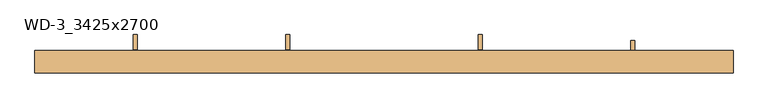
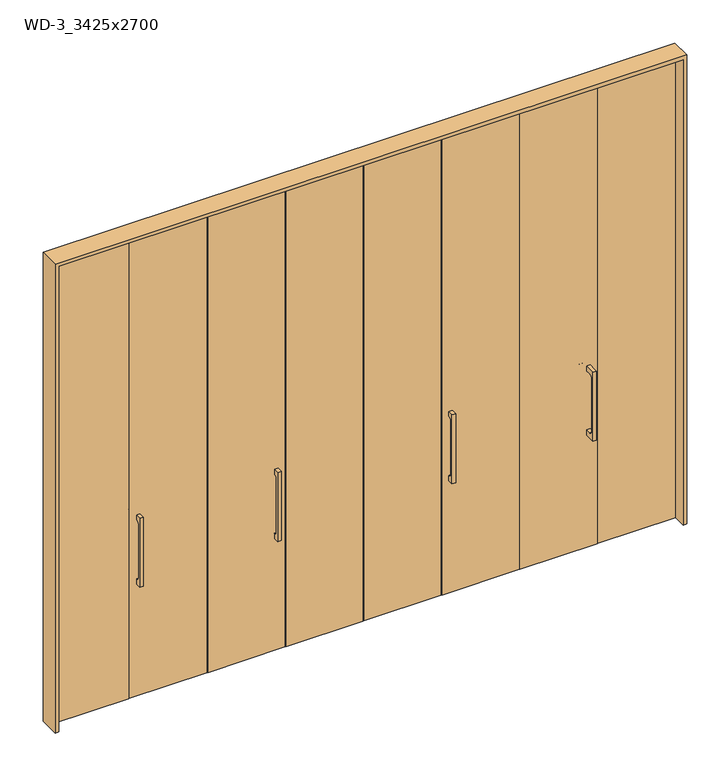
"""IFC4 building model written with IfcOpenShell, lengths in millimetres: door geometry, Ward-Robe : WD-3_3425x2700."""

from ifc_helpers import new_model, si_unit, point, frame, frame_2d, origin, origin_with_axes, place, context, project, spatial, polyline, circle_curve, trimmed, segment, composite_curve, outline, extrude, source, transform, mapped, element, save


def wd_3_3425x2700_77d3bb71(model_context):
    return source(origin(), model_context, "Body", "SweptSolid", [
        extrude(outline(polyline([(-15.0, 650.0), (-15.0, 1050.0), (60.0, 1050.0), (135.0, 1050.0), (135.0, 650.0), (60.0, 650.0), (-15.0, 650.0)]), holes=[composite_curve([segment(trimmed(circle_curve(frame_2d((15.0, 1005.0)), 15.0), [point((15.0, 1020.0))], [point((0.0, 1005.0))], True, "CARTESIAN"), True, "CONTINUOUS"), segment(polyline([(0.0, 1005.0), (0.0, 695.0)]), True, "CONTINUOUS"), segment(trimmed(circle_curve(frame_2d((15.0, 695.0)), 15.0), [point((0.0, 695.0))], [point((15.0, 680.0))], True, "CARTESIAN"), True, "CONTINUOUS"), segment(polyline([(15.0, 680.0), (60.0, 680.0), (105.0, 680.0)]), True, "CONTINUOUS"), segment(trimmed(circle_curve(frame_2d((105.0, 695.0)), 15.0), [point((105.0, 680.0))], [point((120.0, 695.0))], True, "CARTESIAN"), True, "CONTINUOUS"), segment(polyline([(120.0, 695.0), (120.0, 1005.0)]), True, "CONTINUOUS"), segment(trimmed(circle_curve(frame_2d((105.0, 1005.0)), 15.0), [point((120.0, 1005.0))], [point((105.0, 1020.0))], True, "CARTESIAN"), True, "CONTINUOUS"), segment(polyline([(105.0, 1020.0), (60.0, 1020.0), (15.0, 1020.0)]), True, "CONTINUOUS")], self_intersect=False)]), frame((-488.125, 0.0, 0.0), z_axis=(1.0, 0.0, 0.0), x_axis=(0.0, 1.0, 0.0)), (0.0, 0.0, 1.0), 20.0),
        extrude(outline(polyline([(-15.0, 650.0), (-15.0, 1050.0), (60.0, 1050.0), (135.0, 1050.0), (135.0, 650.0), (60.0, 650.0), (-15.0, 650.0)]), holes=[composite_curve([segment(trimmed(circle_curve(frame_2d((15.0, 1005.0)), 15.0), [point((15.0, 1020.0))], [point((0.0, 1005.0))], True, "CARTESIAN"), True, "CONTINUOUS"), segment(polyline([(0.0, 1005.0), (0.0, 695.0)]), True, "CONTINUOUS"), segment(trimmed(circle_curve(frame_2d((15.0, 695.0)), 15.0), [point((0.0, 695.0))], [point((15.0, 680.0))], True, "CARTESIAN"), True, "CONTINUOUS"), segment(polyline([(15.0, 680.0), (60.0, 680.0), (105.0, 680.0)]), True, "CONTINUOUS"), segment(trimmed(circle_curve(frame_2d((105.0, 695.0)), 15.0), [point((105.0, 680.0))], [point((120.0, 695.0))], True, "CARTESIAN"), True, "CONTINUOUS"), segment(polyline([(120.0, 695.0), (120.0, 1005.0)]), True, "CONTINUOUS"), segment(trimmed(circle_curve(frame_2d((105.0, 1005.0)), 15.0), [point((120.0, 1005.0))], [point((105.0, 1020.0))], True, "CARTESIAN"), True, "CONTINUOUS"), segment(polyline([(105.0, 1020.0), (60.0, 1020.0), (15.0, 1020.0)]), True, "CONTINUOUS")], self_intersect=False)]), frame((-1244.375, 0.0, 0.0), z_axis=(1.0, 0.0, 0.0), x_axis=(0.0, 1.0, 0.0)), (0.0, 0.0, 1.0), 20.0),
        extrude(outline(polyline([(-15.0, 650.0), (-15.0, 1050.0), (60.0, 1050.0), (135.0, 1050.0), (135.0, 650.0), (60.0, 650.0), (-15.0, 650.0)]), holes=[composite_curve([segment(trimmed(circle_curve(frame_2d((15.0, 1005.0)), 15.0), [point((15.0, 1020.0))], [point((0.0, 1005.0))], True, "CARTESIAN"), True, "CONTINUOUS"), segment(polyline([(0.0, 1005.0), (0.0, 695.0)]), True, "CONTINUOUS"), segment(trimmed(circle_curve(frame_2d((15.0, 695.0)), 15.0), [point((0.0, 695.0))], [point((15.0, 680.0))], True, "CARTESIAN"), True, "CONTINUOUS"), segment(polyline([(15.0, 680.0), (60.0, 680.0), (105.0, 680.0)]), True, "CONTINUOUS"), segment(trimmed(circle_curve(frame_2d((105.0, 695.0)), 15.0), [point((105.0, 680.0))], [point((120.0, 695.0))], True, "CARTESIAN"), True, "CONTINUOUS"), segment(polyline([(120.0, 695.0), (120.0, 1005.0)]), True, "CONTINUOUS"), segment(trimmed(circle_curve(frame_2d((105.0, 1005.0)), 15.0), [point((120.0, 1005.0))], [point((105.0, 1020.0))], True, "CARTESIAN"), True, "CONTINUOUS"), segment(polyline([(105.0, 1020.0), (60.0, 1020.0), (15.0, 1020.0)]), True, "CONTINUOUS")], self_intersect=False)]), frame((468.125, 0.0, 0.0), z_axis=(1.0, 0.0, 0.0), x_axis=(0.0, 1.0, 0.0)), (0.0, 0.0, 1.0), 20.0),
        extrude(outline(polyline([(-44.0, 650.0), (-44.0, 1050.0), (31.0, 1050.0), (106.0, 1050.0), (106.0, 650.0), (31.0, 650.0), (-44.0, 650.0)]), holes=[composite_curve([segment(trimmed(circle_curve(frame_2d((-14.0, 1005.0)), 15.0), [point((-14.0, 1020.0))], [point((-29.0, 1005.0))], True, "CARTESIAN"), True, "CONTINUOUS"), segment(polyline([(-29.0, 1005.0), (-29.0, 695.0)]), True, "CONTINUOUS"), segment(trimmed(circle_curve(frame_2d((-14.0, 695.0)), 15.0), [point((-29.0, 695.0))], [point((-14.0, 680.0))], True, "CARTESIAN"), True, "CONTINUOUS"), segment(polyline([(-14.0, 680.0), (31.0, 680.0), (76.0, 680.0)]), True, "CONTINUOUS"), segment(trimmed(circle_curve(frame_2d((76.0, 695.0)), 15.0), [point((76.0, 680.0))], [point((91.0, 695.0))], True, "CARTESIAN"), True, "CONTINUOUS"), segment(polyline([(91.0, 695.0), (91.0, 1005.0)]), True, "CONTINUOUS"), segment(trimmed(circle_curve(frame_2d((76.0, 1005.0)), 15.0), [point((91.0, 1005.0))], [point((76.0, 1020.0))], True, "CARTESIAN"), True, "CONTINUOUS"), segment(polyline([(76.0, 1020.0), (31.0, 1020.0), (-14.0, 1020.0)]), True, "CONTINUOUS")], self_intersect=False)]), frame((1224.375, 0.0, 0.0), z_axis=(1.0, 0.0, 0.0), x_axis=(0.0, 1.0, 0.0)), (0.0, 0.0, 1.0), 20.0),
        extrude(outline(polyline([(2720.0, -1732.5), (0.0, -1732.5), (0.0, -1712.5), (2700.0, -1712.5), (2700.0, 1712.5), (0.0, 1712.5), (0.0, 1732.5), (2720.0, 1732.5), (2720.0, -1732.5)])), frame((0.0, -56.0, 0.0), z_axis=(0.0, 1.0, 0.0), x_axis=(0.0, 0.0, 1.0)), (0.0, 0.0, 1.0), 112.0),
        extrude(outline(polyline([(1282.375, 16.0), (858.25, 16.0), (858.25, 46.0), (1282.375, 46.0), (1282.375, 16.0)])), origin_with_axes(), (0.0, 0.0, 1.0), 2700.0),
        extrude(outline(polyline([(1712.5, 16.0), (1286.375, 16.0), (1286.375, 46.0), (1712.5, 46.0), (1712.5, 16.0)])), origin_with_axes(), (0.0, 0.0, 1.0), 2700.0),
        extrude(outline(polyline([(-2.0, 16.0), (-426.125, 16.0), (-426.125, 46.0), (-2.0, 46.0), (-2.0, 16.0)])), origin_with_axes(), (0.0, 0.0, 1.0), 2700.0),
        extrude(outline(polyline([(854.25, 16.0), (430.125, 16.0), (430.125, 46.0), (854.25, 46.0), (854.25, 16.0)])), origin_with_axes(), (0.0, 0.0, 1.0), 2700.0),
        extrude(outline(polyline([(426.125, 16.0), (2.0, 16.0), (2.0, 46.0), (426.125, 46.0), (426.125, 16.0)])), origin_with_axes(), (0.0, 0.0, 1.0), 2700.0),
        extrude(outline(polyline([(-430.125, 16.0), (-854.25, 16.0), (-854.25, 46.0), (-430.125, 46.0), (-430.125, 16.0)])), origin_with_axes(), (0.0, 0.0, 1.0), 2700.0),
        extrude(outline(polyline([(-858.25, 16.0), (-1282.375, 16.0), (-1282.375, 46.0), (-858.25, 46.0), (-858.25, 16.0)])), origin_with_axes(), (0.0, 0.0, 1.0), 2700.0),
        extrude(outline(polyline([(-1286.375, 16.0), (-1712.5, 16.0), (-1712.5, 46.0), (-1286.375, 46.0), (-1286.375, 16.0)])), origin_with_axes(), (0.0, 0.0, 1.0), 2700.0),
    ])


if __name__ == "__main__":
    model = new_model("IFC4")
    model_context = context("Model", 3, world=origin())
    ifc_project = project(units=[si_unit("LENGTHUNIT", "METRE", prefix="MILLI")], contexts=[model_context])
    site = spatial("IfcSite", under=ifc_project)
    building = spatial("IfcBuilding", under=site)
    placement = place(None, origin())
    wd_3_3425x2700_shape = wd_3_3425x2700_77d3bb71(model_context)
    element("IfcDoor", 1, ObjectType="Ward-Robe : WD-3_3425x2700", at=placement, inside=building, context=model_context, shape_type="MappedRepresentation", body=[
        mapped(wd_3_3425x2700_shape, transform((0.0, 0.0, 0.0), x_axis=(1.0, 0.0, 0.0), y_axis=(0.0, 1.0, 0.0), z_axis=(0.0, 0.0, 1.0))),
    ])
    save(model, "model.ifc")
